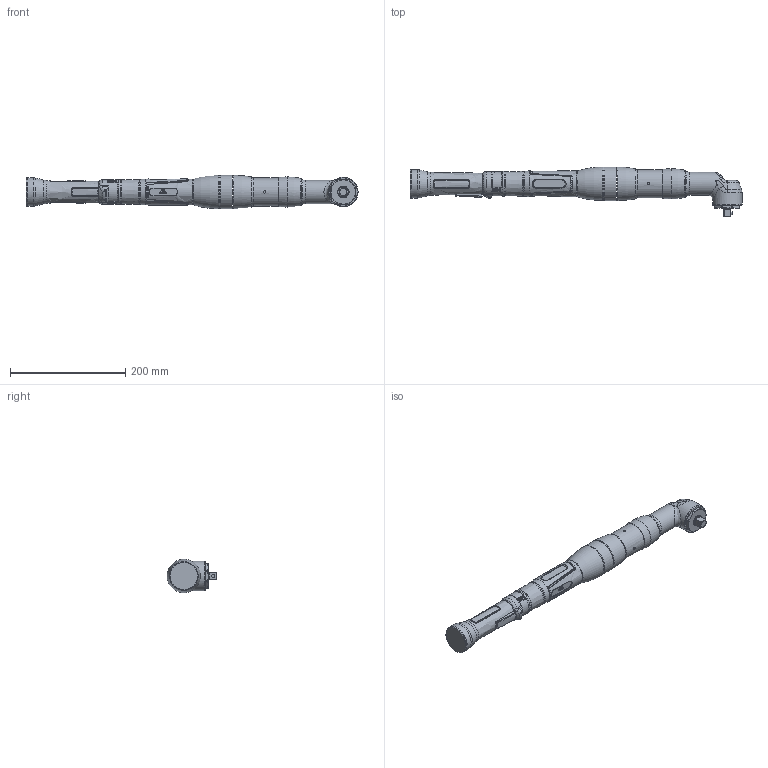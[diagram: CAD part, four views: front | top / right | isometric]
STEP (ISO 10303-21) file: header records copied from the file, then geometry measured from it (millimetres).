
FILE_DESCRIPTION (( 'STEP AP214' ), '1' );
FILE_NAME ('70058343_HSX2150WV12.STEP', '2016-11-17T06:55:47', ( 'admin' ), ( '' ), 'SwSTEP 2.0', 'SolidWorks 2014', '' );
FILE_SCHEMA (( 'AUTOMOTIVE_DESIGN' ));
Length unit declared in the file: millimetre
Products named in the file (1): 70058343_HSX2150WV12
Bounding box: 574.96 x 86.3 x 58 mm (x, y, z)
Volume: 926577 mm3; surface area: 112541.9 mm2
Topology: 4 solids, 4 shells, 1136 faces, 2808 edges, 1685 vertices
Faces by surface type: bspline 438, cylinder 253, plane 240, torus 140, cone 35, sphere 30
Full cylindrical faces by diameter (mm): 1.7 x2, 4 x5, 4.7 x1, 20 x1, 38 x1, 39 x1, 39.5 x1, 40 x1, 40.5 x1, 42 x2, 43.3 x1, 43.5 x1, 44 x1, 49 x1, 49.5 x1, 51 x2, 58 x3
Entity records: 51981 total; most frequent: CARTESIAN_POINT 26728, ORIENTED_EDGE 5312, DIRECTION 3863, EDGE_CURVE 2656, VERTEX_POINT 1645, AXIS2_PLACEMENT_3D 1556, EDGE_LOOP 1269, FACE_OUTER_BOUND 1202
